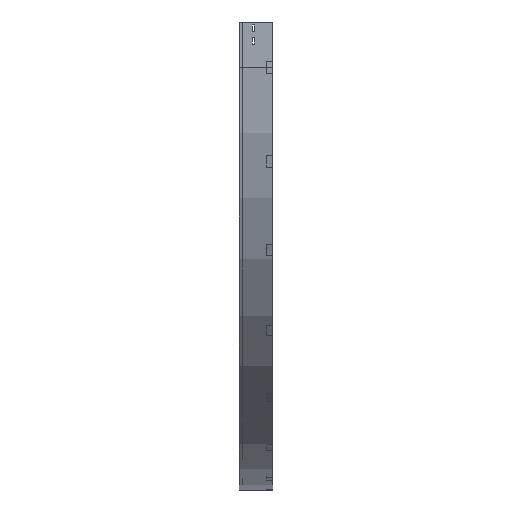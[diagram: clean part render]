
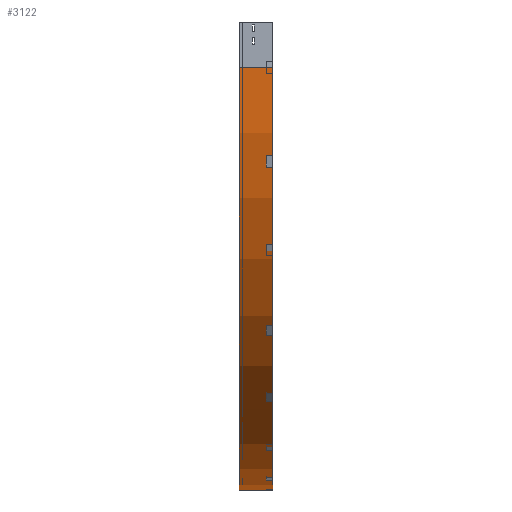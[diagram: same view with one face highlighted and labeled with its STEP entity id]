
A CAD part, left-side view. The second image highlights one B-rep face of the part: STEP entity #3122.
In plain terms, the highlighted cylindrical face has radius 1400 mm (diameter 2800 mm), a partial arc.
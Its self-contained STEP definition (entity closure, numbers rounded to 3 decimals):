
#48 = CIRCLE ( 'NONE', #2376, 1400. ) ;
#108 = VERTEX_POINT ( 'NONE', #1060 ) ;
#162 = DIRECTION ( 'NONE',  ( -1., 0., 0. ) ) ;
#201 = DIRECTION ( 'NONE',  ( 0., -1., 0. ) ) ;
#230 = VECTOR ( 'NONE', #3711, 1000. ) ;
#359 = DIRECTION ( 'NONE',  ( -1., 0., 0. ) ) ;
#392 = CARTESIAN_POINT ( 'NONE',  ( 0., 112.5, -150. ) ) ;
#495 = CARTESIAN_POINT ( 'NONE',  ( 1400., 0., -150. ) ) ;
#517 = ORIENTED_EDGE ( 'NONE', *, *, #1838, .T. ) ;
#560 = AXIS2_PLACEMENT_3D ( 'NONE', #3404, #2301, #3444 ) ;
#634 = CARTESIAN_POINT ( 'NONE',  ( 0., 0., -150. ) ) ;
#781 = DIRECTION ( 'NONE',  ( 0., -1., 0. ) ) ;
#848 = EDGE_LOOP ( 'NONE', ( #2214, #1213, #1605, #517 ) ) ;
#922 = AXIS2_PLACEMENT_3D ( 'NONE', #495, #201, #162 ) ;
#1060 = CARTESIAN_POINT ( 'NONE',  ( 1400., 0., -1550. ) ) ;
#1083 = VERTEX_POINT ( 'NONE', #1764 ) ;
#1213 = ORIENTED_EDGE ( 'NONE', *, *, #1713, .F. ) ;
#1248 = CIRCLE ( 'NONE', #922, 1400. ) ;
#1595 = CARTESIAN_POINT ( 'NONE',  ( 1400., 112.5, -150. ) ) ;
#1605 = ORIENTED_EDGE ( 'NONE', *, *, #2347, .T. ) ;
#1658 = LINE ( 'NONE', #3101, #230 ) ;
#1713 = EDGE_CURVE ( 'NONE', #2084, #2395, #1658, .T. ) ;
#1764 = CARTESIAN_POINT ( 'NONE',  ( 1400., 112.5, -1550. ) ) ;
#1838 = EDGE_CURVE ( 'NONE', #1083, #108, #2059, .T. ) ;
#2059 = LINE ( 'NONE', #3261, #3564 ) ;
#2084 = VERTEX_POINT ( 'NONE', #392 ) ;
#2206 = CYLINDRICAL_SURFACE ( 'NONE', #560, 1400. ) ;
#2214 = ORIENTED_EDGE ( 'NONE', *, *, #2670, .F. ) ;
#2301 = DIRECTION ( 'NONE',  ( 0., -1., 0. ) ) ;
#2347 = EDGE_CURVE ( 'NONE', #2084, #1083, #48, .T. ) ;
#2376 = AXIS2_PLACEMENT_3D ( 'NONE', #1595, #3663, #359 ) ;
#2395 = VERTEX_POINT ( 'NONE', #634 ) ;
#2670 = EDGE_CURVE ( 'NONE', #2395, #108, #1248, .T. ) ;
#2792 = FACE_OUTER_BOUND ( 'NONE', #848, .T. ) ;
#3101 = CARTESIAN_POINT ( 'NONE',  ( 0., 0., -150. ) ) ;
#3122 = ADVANCED_FACE ( 'NONE', ( #2792 ), #2206, .T. ) ;
#3261 = CARTESIAN_POINT ( 'NONE',  ( 1400., 0., -1550. ) ) ;
#3404 = CARTESIAN_POINT ( 'NONE',  ( 1400., 0., -150. ) ) ;
#3444 = DIRECTION ( 'NONE',  ( 0., 0., -1. ) ) ;
#3564 = VECTOR ( 'NONE', #781, 1000. ) ;
#3663 = DIRECTION ( 'NONE',  ( 0., -1., 0. ) ) ;
#3711 = DIRECTION ( 'NONE',  ( 0., -1., 0. ) ) ;
